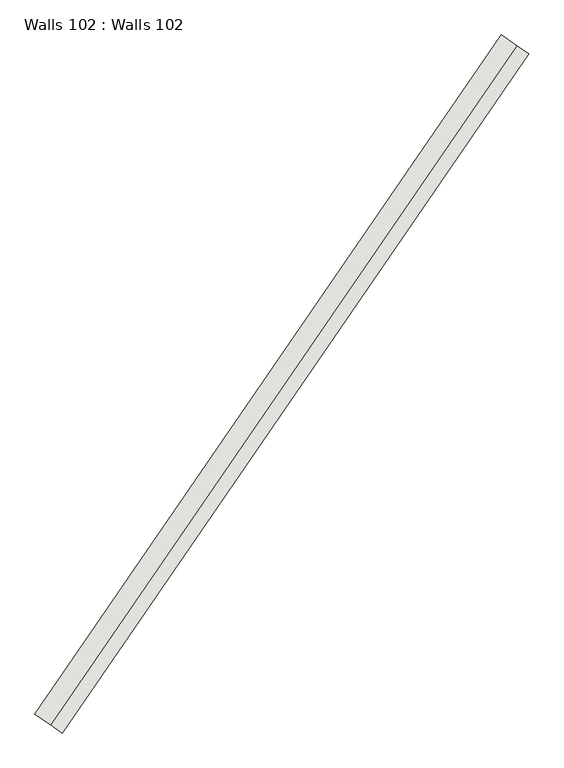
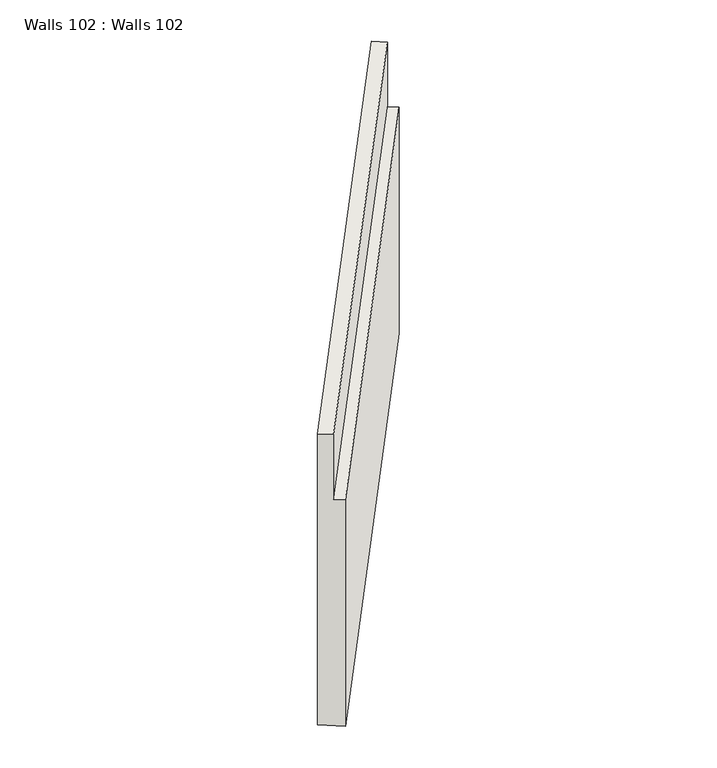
"""IFC4 building model written with IfcOpenShell, lengths in millimetres: wall geometry, Walls 102 : Walls 102."""

from ifc_helpers import new_model, si_unit, frame, origin, place, context, project, spatial, polyline, outline, extrude, source, transform, mapped, element, save


def walls_102_walls_102_0c636106(model_context):
    return source(origin(), model_context, "Body", "SweptSolid", [
        extrude(outline(polyline([(658567.0, 0.0), (654067.0, 0.0), (654067.0, 350.0000001), (657567.0, 350.0000001), (657567.0, 200.0), (658567.0, 200.0), (658567.0, 0.0)])), frame((570532.4270967, 483444.007811, 0.0), z_axis=(0.5664229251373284, 0.8241147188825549, 0.0), x_axis=(0.0, 0.0, 1.0)), (0.0, 0.0, 1.0), 8699.9999996),
    ])


if __name__ == "__main__":
    model = new_model("IFC4")
    model_context = context("Model", 3, world=origin())
    ifc_project = project(units=[si_unit("LENGTHUNIT", "METRE", prefix="MILLI")], contexts=[model_context])
    site = spatial("IfcSite", under=ifc_project)
    building = spatial("IfcBuilding", under=site)
    placement = place(None, origin())
    walls_102_walls_102_shape = walls_102_walls_102_0c636106(model_context)
    element("IfcWall", 1, ObjectType="Walls 102 : Walls 102", at=placement, inside=building, context=model_context, shape_type="MappedRepresentation", body=[
        mapped(walls_102_walls_102_shape, transform((0.0, 0.0, 0.0), x_axis=(1.0, 0.0, 0.0), y_axis=(0.0, 1.0, 0.0), z_axis=(0.0, 0.0, 1.0))),
    ])
    save(model, "model.ifc")
